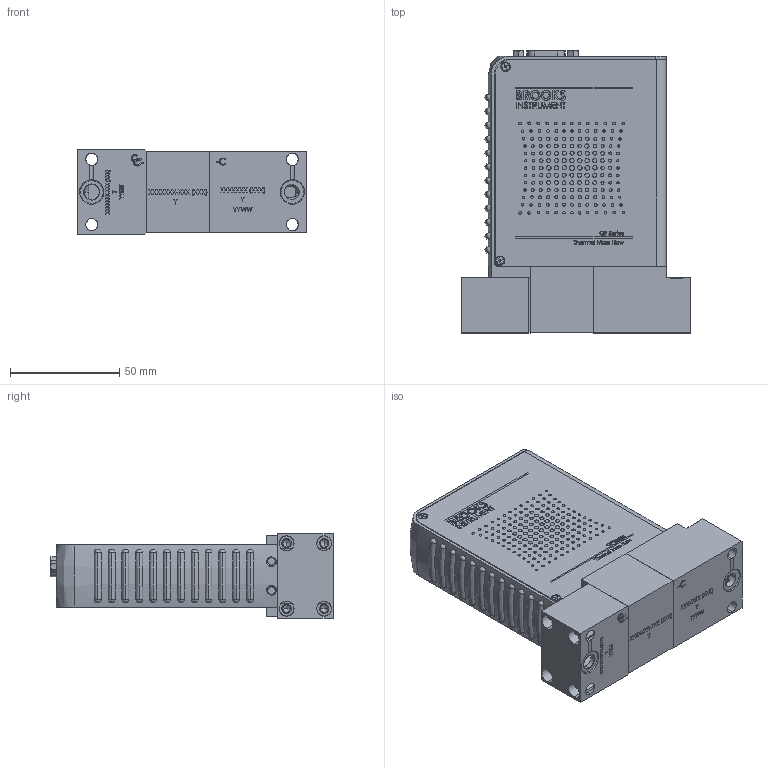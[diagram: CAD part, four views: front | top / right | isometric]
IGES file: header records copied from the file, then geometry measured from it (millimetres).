
Start section: SolidWorks IGES file using analytic representation for surfaces
Global section: file name: G:\Engineering\CAD MODELS FOR SALES\CAD MODEL STORAGE\GF\GF125\CUSTOMER FILES\IGES\GF100-GF120-GF125-AS-G11.IGS; native system: SolidWorks 2020; preprocessor: SolidWorks 2020; author: CFehr; date: 221209.093743; units: inch
Bounding box: 104.95 x 129.41 x 38.73 mm (x, y, z)
Volume: 83254.5 mm3; surface area: 88100.8 mm2
Topology: 62 solids, 62 shells, 2976 faces, 7673 edges, 5038 vertices
Faces by surface type: plane 1731, revolution 809, bspline 436
